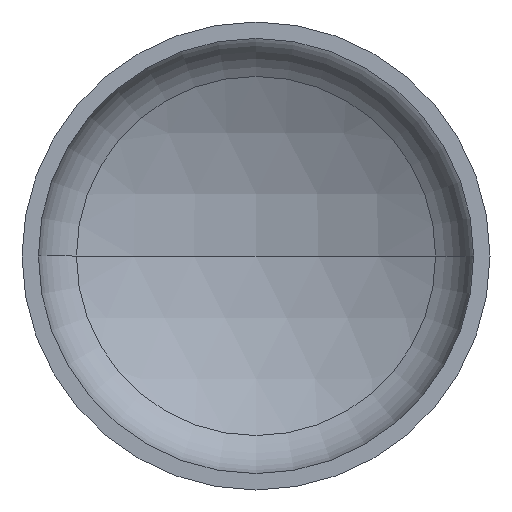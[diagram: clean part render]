
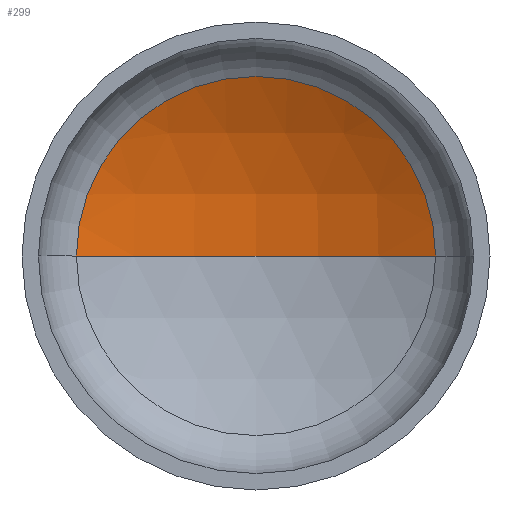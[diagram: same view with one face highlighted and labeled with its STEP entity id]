
A CAD part, front view. The second image highlights one B-rep face of the part: STEP entity #299.
In plain terms, the highlighted spherical face has radius 640 mm.
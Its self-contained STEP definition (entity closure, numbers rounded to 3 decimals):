
#3 = AXIS2_PLACEMENT_3D ( 'NONE', #231, #234, #402 ) ;
#9 = AXIS2_PLACEMENT_3D ( 'NONE', #11, #221, #109 ) ;
#11 = CARTESIAN_POINT ( 'NONE',  ( 0., -366.903, 0. ) ) ;
#20 = AXIS2_PLACEMENT_3D ( 'NONE', #351, #242, #76 ) ;
#25 = EDGE_LOOP ( 'NONE', ( #85, #98, #75 ) ) ;
#28 = VERTEX_POINT ( 'NONE', #354 ) ;
#75 = ORIENTED_EDGE ( 'NONE', *, *, #364, .T. ) ;
#76 = DIRECTION ( 'NONE',  ( -1., 0., 0. ) ) ;
#85 = ORIENTED_EDGE ( 'NONE', *, *, #347, .F. ) ;
#89 = VERTEX_POINT ( 'NONE', #368 ) ;
#98 = ORIENTED_EDGE ( 'NONE', *, *, #363, .T. ) ;
#109 = DIRECTION ( 'NONE',  ( 1., 0., 0. ) ) ;
#136 = VERTEX_POINT ( 'NONE', #284 ) ;
#180 = DIRECTION ( 'NONE',  ( 0., -1., 0. ) ) ;
#183 = DIRECTION ( 'NONE',  ( 1., 0., 0. ) ) ;
#210 = CIRCLE ( 'NONE', #324, 306.951 ) ;
#221 = DIRECTION ( 'NONE',  ( 0., 0., 1. ) ) ;
#231 = CARTESIAN_POINT ( 'NONE',  ( 0., -366.903, 0. ) ) ;
#234 = DIRECTION ( 'NONE',  ( 0., 0., -1. ) ) ;
#236 = FACE_OUTER_BOUND ( 'NONE', #25, .T. ) ;
#242 = DIRECTION ( 'NONE',  ( 0., 0., -1. ) ) ;
#284 = CARTESIAN_POINT ( 'NONE',  ( 0., 273.097, 0. ) ) ;
#299 = ADVANCED_FACE ( 'NONE', ( #236 ), #366, .F. ) ;
#324 = AXIS2_PLACEMENT_3D ( 'NONE', #329, #180, #183 ) ;
#329 = CARTESIAN_POINT ( 'NONE',  ( 0., 194.685, 0. ) ) ;
#341 = CIRCLE ( 'NONE', #3, 640. ) ;
#347 = EDGE_CURVE ( 'NONE', #136, #28, #349, .T. ) ;
#349 = CIRCLE ( 'NONE', #9, 640. ) ;
#351 = CARTESIAN_POINT ( 'NONE',  ( 0., -366.903, 0. ) ) ;
#354 = CARTESIAN_POINT ( 'NONE',  ( -306.951, 194.685, 0. ) ) ;
#363 = EDGE_CURVE ( 'NONE', #136, #89, #341, .T. ) ;
#364 = EDGE_CURVE ( 'NONE', #89, #28, #210, .T. ) ;
#366 = SPHERICAL_SURFACE ( 'NONE', #20, 640. ) ;
#368 = CARTESIAN_POINT ( 'NONE',  ( 306.951, 194.685, 0. ) ) ;
#402 = DIRECTION ( 'NONE',  ( -1., 0., 0. ) ) ;
